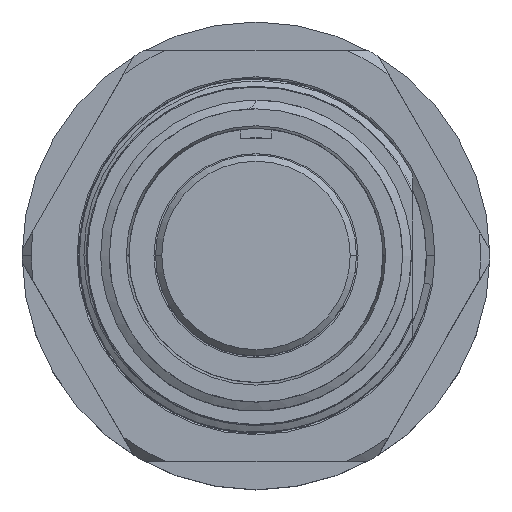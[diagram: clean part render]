
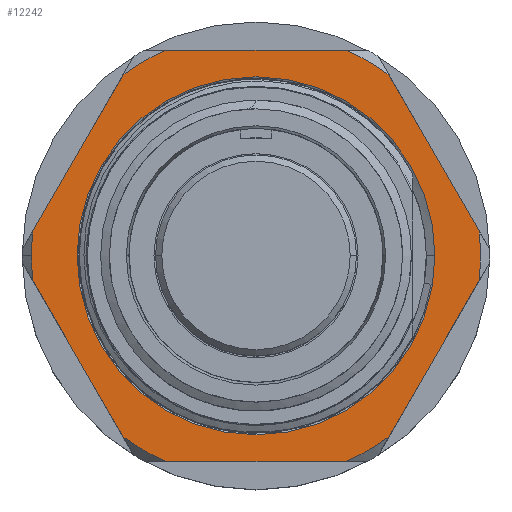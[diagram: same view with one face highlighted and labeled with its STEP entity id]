
A CAD part, top view. The second image highlights one B-rep face of the part: STEP entity #12242.
In plain terms, the highlighted planar face has unit normal (0, 0, 1).
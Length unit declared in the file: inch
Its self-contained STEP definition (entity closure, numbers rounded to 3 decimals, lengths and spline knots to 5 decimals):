
#166 = EDGE_CURVE ( 'NONE', #2756, #3051, #15638, .T. ) ;
#430 = CIRCLE ( 'NONE', #23683, 0.715 ) ;
#470 = CARTESIAN_POINT ( 'NONE',  ( 0., 0., -0.59 ) ) ;
#499 = CARTESIAN_POINT ( 'NONE',  ( -0.42389, -0.57579, -0.59 ) ) ;
#552 = VECTOR ( 'NONE', #22822, 39.37008 ) ;
#764 = DIRECTION ( 'NONE',  ( 0., 0., 1. ) ) ;
#920 = EDGE_CURVE ( 'NONE', #8822, #15217, #17314, .T. ) ;
#956 = ORIENTED_EDGE ( 'NONE', *, *, #10582, .T. ) ;
#1087 = CARTESIAN_POINT ( 'NONE',  ( -0.715, 0., -0.59 ) ) ;
#1722 = PLANE ( 'NONE',  #16632 ) ;
#1789 = DIRECTION ( 'NONE',  ( 0., 0., 1. ) ) ;
#2187 = ORIENTED_EDGE ( 'NONE', *, *, #15051, .T. ) ;
#2209 = VECTOR ( 'NONE', #16101, 39.37008 ) ;
#2253 = DIRECTION ( 'NONE',  ( 0.5, 0.866, 0. ) ) ;
#2383 = CARTESIAN_POINT ( 'NONE',  ( -0.57, 0., -0.59 ) ) ;
#2495 = LINE ( 'NONE', #13604, #4766 ) ;
#2508 = VERTEX_POINT ( 'NONE', #23969 ) ;
#2756 = VERTEX_POINT ( 'NONE', #19254 ) ;
#3051 = VERTEX_POINT ( 'NONE', #17527 ) ;
#3154 = CARTESIAN_POINT ( 'NONE',  ( -0.28671, -0.655, -0.59 ) ) ;
#3213 = CIRCLE ( 'NONE', #9150, 0.715 ) ;
#3220 = CARTESIAN_POINT ( 'NONE',  ( 0., 0., -0.59 ) ) ;
#3280 = ORIENTED_EDGE ( 'NONE', *, *, #15300, .T. ) ;
#3311 = AXIS2_PLACEMENT_3D ( 'NONE', #16722, #1789, #9340 ) ;
#3542 = AXIS2_PLACEMENT_3D ( 'NONE', #19441, #15857, #4518 ) ;
#3569 = CARTESIAN_POINT ( 'NONE',  ( 0., 0.57, -0.59 ) ) ;
#3578 = AXIS2_PLACEMENT_3D ( 'NONE', #21755, #764, #15808 ) ;
#3775 = EDGE_CURVE ( 'NONE', #7622, #19144, #20507, .T. ) ;
#4070 = CARTESIAN_POINT ( 'NONE',  ( 0., 0.655, -0.59 ) ) ;
#4163 = DIRECTION ( 'NONE',  ( 1., 0., 0. ) ) ;
#4269 = CARTESIAN_POINT ( 'NONE',  ( -0.81406, 0.1, -0.59 ) ) ;
#4273 = EDGE_CURVE ( 'NONE', #16249, #15678, #2495, .T. ) ;
#4518 = DIRECTION ( 'NONE',  ( 1., 0., 0. ) ) ;
#4596 = CARTESIAN_POINT ( 'NONE',  ( 0., -0.655, -0.59 ) ) ;
#4613 = VERTEX_POINT ( 'NONE', #23845 ) ;
#4651 = CARTESIAN_POINT ( 'NONE',  ( -0.28671, 0.655, -0.59 ) ) ;
#4766 = VECTOR ( 'NONE', #2253, 39.37008 ) ;
#5106 = DIRECTION ( 'NONE',  ( 1., 0., 0. ) ) ;
#5351 = CARTESIAN_POINT ( 'NONE',  ( 0., 0., -0.59 ) ) ;
#5575 = DIRECTION ( 'NONE',  ( 0., 0., 1. ) ) ;
#6395 = CARTESIAN_POINT ( 'NONE',  ( 0.81406, 0.1, -0.59 ) ) ;
#6719 = LINE ( 'NONE', #18081, #2209 ) ;
#7279 = DIRECTION ( 'NONE',  ( 0., 0., 1. ) ) ;
#7447 = VECTOR ( 'NONE', #13794, 39.37008 ) ;
#7587 = ORIENTED_EDGE ( 'NONE', *, *, #166, .F. ) ;
#7622 = VERTEX_POINT ( 'NONE', #499 ) ;
#7805 = VERTEX_POINT ( 'NONE', #23688 ) ;
#8023 = LINE ( 'NONE', #4070, #552 ) ;
#8674 = EDGE_CURVE ( 'NONE', #12003, #2508, #430, .T. ) ;
#8822 = VERTEX_POINT ( 'NONE', #1087 ) ;
#9150 = AXIS2_PLACEMENT_3D ( 'NONE', #17547, #18588, #16728 ) ;
#9181 = CARTESIAN_POINT ( 'NONE',  ( 0., 0., -0.59 ) ) ;
#9340 = DIRECTION ( 'NONE',  ( 1., 0., 0. ) ) ;
#10582 = EDGE_CURVE ( 'NONE', #2756, #22227, #3213, .T. ) ;
#11001 = DIRECTION ( 'NONE',  ( 0., 0., -1. ) ) ;
#11910 = AXIS2_PLACEMENT_3D ( 'NONE', #3220, #7279, #14806 ) ;
#12003 = VERTEX_POINT ( 'NONE', #21612 ) ;
#12242 = ADVANCED_FACE ( 'NONE', ( #18391, #23825 ), #1722, .F. ) ;
#12393 = AXIS2_PLACEMENT_3D ( 'NONE', #9181, #5575, #20623 ) ;
#12732 = ORIENTED_EDGE ( 'NONE', *, *, #3775, .T. ) ;
#13132 = EDGE_CURVE ( 'NONE', #4613, #3051, #13479, .T. ) ;
#13356 = ORIENTED_EDGE ( 'NONE', *, *, #4273, .F. ) ;
#13479 = CIRCLE ( 'NONE', #11910, 0.715 ) ;
#13491 = CIRCLE ( 'NONE', #12393, 0.715 ) ;
#13604 = CARTESIAN_POINT ( 'NONE',  ( -0.32043, 0.755, -0.59 ) ) ;
#13769 = EDGE_CURVE ( 'NONE', #18248, #7805, #19795, .T. ) ;
#13794 = DIRECTION ( 'NONE',  ( -0.5, -0.866, 0. ) ) ;
#13940 = CIRCLE ( 'NONE', #3311, 0.57 ) ;
#14214 = DIRECTION ( 'NONE',  ( -1., 0., 0. ) ) ;
#14433 = CARTESIAN_POINT ( 'NONE',  ( -0.42389, 0.57579, -0.59 ) ) ;
#14806 = DIRECTION ( 'NONE',  ( 1., 0., 0. ) ) ;
#15051 = EDGE_CURVE ( 'NONE', #24368, #15678, #13491, .T. ) ;
#15217 = VERTEX_POINT ( 'NONE', #20857 ) ;
#15300 = EDGE_CURVE ( 'NONE', #16249, #8822, #17894, .T. ) ;
#15406 = CARTESIAN_POINT ( 'NONE',  ( -0.7106, 0.07921, -0.59 ) ) ;
#15638 = LINE ( 'NONE', #6395, #7447 ) ;
#15642 = ORIENTED_EDGE ( 'NONE', *, *, #16205, .F. ) ;
#15678 = VERTEX_POINT ( 'NONE', #14433 ) ;
#15808 = DIRECTION ( 'NONE',  ( 1., 0., 0. ) ) ;
#15857 = DIRECTION ( 'NONE',  ( 0., 0., 1. ) ) ;
#15922 = EDGE_CURVE ( 'NONE', #7805, #18248, #13940, .T. ) ;
#16101 = DIRECTION ( 'NONE',  ( 0.5, -0.866, 0. ) ) ;
#16205 = EDGE_CURVE ( 'NONE', #24368, #2508, #8023, .T. ) ;
#16249 = VERTEX_POINT ( 'NONE', #15406 ) ;
#16432 = VECTOR ( 'NONE', #19193, 39.37008 ) ;
#16453 = DIRECTION ( 'NONE',  ( 0., 0., 1. ) ) ;
#16632 = AXIS2_PLACEMENT_3D ( 'NONE', #3569, #11001, #18267 ) ;
#16722 = CARTESIAN_POINT ( 'NONE',  ( 0., 0., -0.59 ) ) ;
#16728 = DIRECTION ( 'NONE',  ( 1., 0., 0. ) ) ;
#17276 = DIRECTION ( 'NONE',  ( 0., 0., 1. ) ) ;
#17314 = CIRCLE ( 'NONE', #3542, 0.715 ) ;
#17527 = CARTESIAN_POINT ( 'NONE',  ( 0.42389, -0.57579, -0.59 ) ) ;
#17547 = CARTESIAN_POINT ( 'NONE',  ( 0., 0., -0.59 ) ) ;
#17755 = ORIENTED_EDGE ( 'NONE', *, *, #920, .T. ) ;
#17880 = EDGE_CURVE ( 'NONE', #4613, #19144, #21507, .T. ) ;
#17894 = CIRCLE ( 'NONE', #20644, 0.715 ) ;
#18081 = CARTESIAN_POINT ( 'NONE',  ( 0.32043, 0.755, -0.59 ) ) ;
#18248 = VERTEX_POINT ( 'NONE', #2383 ) ;
#18267 = DIRECTION ( 'NONE',  ( -1., 0., 0. ) ) ;
#18391 = FACE_BOUND ( 'NONE', #18574, .T. ) ;
#18574 = EDGE_LOOP ( 'NONE', ( #21223, #22700 ) ) ;
#18588 = DIRECTION ( 'NONE',  ( 0., 0., 1. ) ) ;
#19144 = VERTEX_POINT ( 'NONE', #3154 ) ;
#19193 = DIRECTION ( 'NONE',  ( -0.5, 0.866, 0. ) ) ;
#19254 = CARTESIAN_POINT ( 'NONE',  ( 0.7106, -0.07921, -0.59 ) ) ;
#19441 = CARTESIAN_POINT ( 'NONE',  ( 0., 0., -0.59 ) ) ;
#19795 = CIRCLE ( 'NONE', #22170, 0.57 ) ;
#19879 = VECTOR ( 'NONE', #14214, 39.37008 ) ;
#20307 = ORIENTED_EDGE ( 'NONE', *, *, #8674, .T. ) ;
#20507 = CIRCLE ( 'NONE', #3578, 0.715 ) ;
#20623 = DIRECTION ( 'NONE',  ( 1., 0., 0. ) ) ;
#20644 = AXIS2_PLACEMENT_3D ( 'NONE', #23078, #17276, #22827 ) ;
#20857 = CARTESIAN_POINT ( 'NONE',  ( -0.7106, -0.07921, -0.59 ) ) ;
#20909 = ORIENTED_EDGE ( 'NONE', *, *, #22617, .F. ) ;
#21063 = LINE ( 'NONE', #4269, #16432 ) ;
#21080 = DIRECTION ( 'NONE',  ( 0., 0., 1. ) ) ;
#21223 = ORIENTED_EDGE ( 'NONE', *, *, #15922, .F. ) ;
#21507 = LINE ( 'NONE', #4596, #19879 ) ;
#21612 = CARTESIAN_POINT ( 'NONE',  ( 0.42389, 0.57579, -0.59 ) ) ;
#21755 = CARTESIAN_POINT ( 'NONE',  ( 0., 0., -0.59 ) ) ;
#22170 = AXIS2_PLACEMENT_3D ( 'NONE', #5351, #16453, #5106 ) ;
#22227 = VERTEX_POINT ( 'NONE', #23036 ) ;
#22432 = ORIENTED_EDGE ( 'NONE', *, *, #13132, .T. ) ;
#22557 = ORIENTED_EDGE ( 'NONE', *, *, #23137, .F. ) ;
#22617 = EDGE_CURVE ( 'NONE', #12003, #22227, #6719, .T. ) ;
#22700 = ORIENTED_EDGE ( 'NONE', *, *, #13769, .F. ) ;
#22822 = DIRECTION ( 'NONE',  ( 1., 0., 0. ) ) ;
#22827 = DIRECTION ( 'NONE',  ( 1., 0., 0. ) ) ;
#23036 = CARTESIAN_POINT ( 'NONE',  ( 0.7106, 0.07921, -0.59 ) ) ;
#23078 = CARTESIAN_POINT ( 'NONE',  ( 0., 0., -0.59 ) ) ;
#23137 = EDGE_CURVE ( 'NONE', #7622, #15217, #21063, .T. ) ;
#23238 = EDGE_LOOP ( 'NONE', ( #7587, #956, #20909, #20307, #15642, #2187, #13356, #3280, #17755, #22557, #12732, #24223, #22432 ) ) ;
#23683 = AXIS2_PLACEMENT_3D ( 'NONE', #470, #21080, #4163 ) ;
#23688 = CARTESIAN_POINT ( 'NONE',  ( 0.57, 0., -0.59 ) ) ;
#23825 = FACE_OUTER_BOUND ( 'NONE', #23238, .T. ) ;
#23845 = CARTESIAN_POINT ( 'NONE',  ( 0.28671, -0.655, -0.59 ) ) ;
#23969 = CARTESIAN_POINT ( 'NONE',  ( 0.28671, 0.655, -0.59 ) ) ;
#24223 = ORIENTED_EDGE ( 'NONE', *, *, #17880, .F. ) ;
#24368 = VERTEX_POINT ( 'NONE', #4651 ) ;
